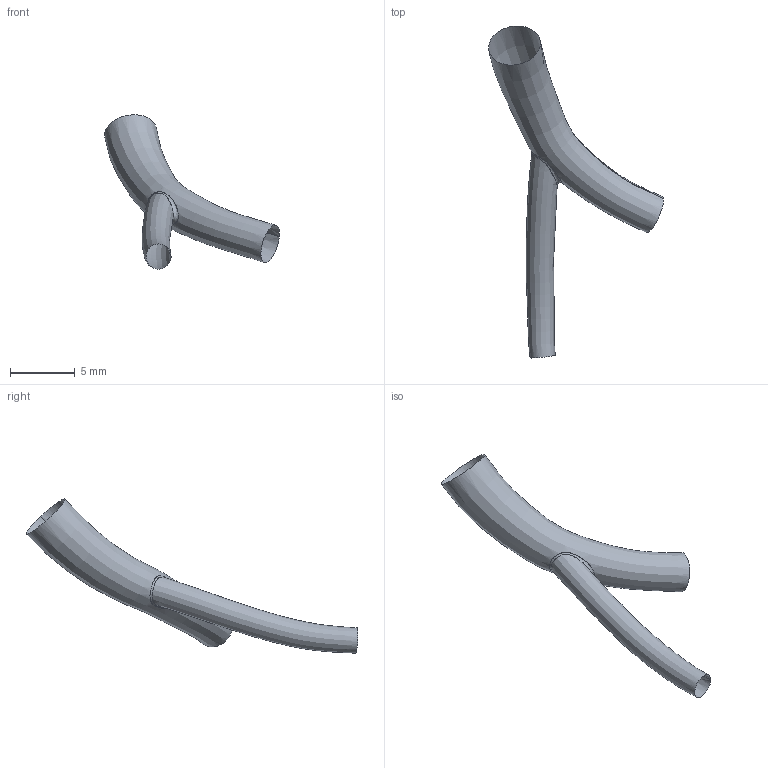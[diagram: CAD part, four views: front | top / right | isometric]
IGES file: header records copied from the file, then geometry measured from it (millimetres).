
Global section: file name: C:\Documents and Settings\Administrator\Desktop\FDA-Pig\Domestic LCA\Pig_000006\diag.ed.igs; native system: Rhinoceros ( May 19 2006 ); preprocessor: Trout Lake IGES 012 May 19 2006; date: 111205.183516; units: centimetre
Bounding box: 13.46 x 25.55 x 11.88 mm (x, y, z)
Surface area: 313.2 mm2 (no closed solid volume)
Topology: 0 solids, 0 shells, 3 faces, 45 edges, 42 vertices
Faces by surface type: bspline 3
